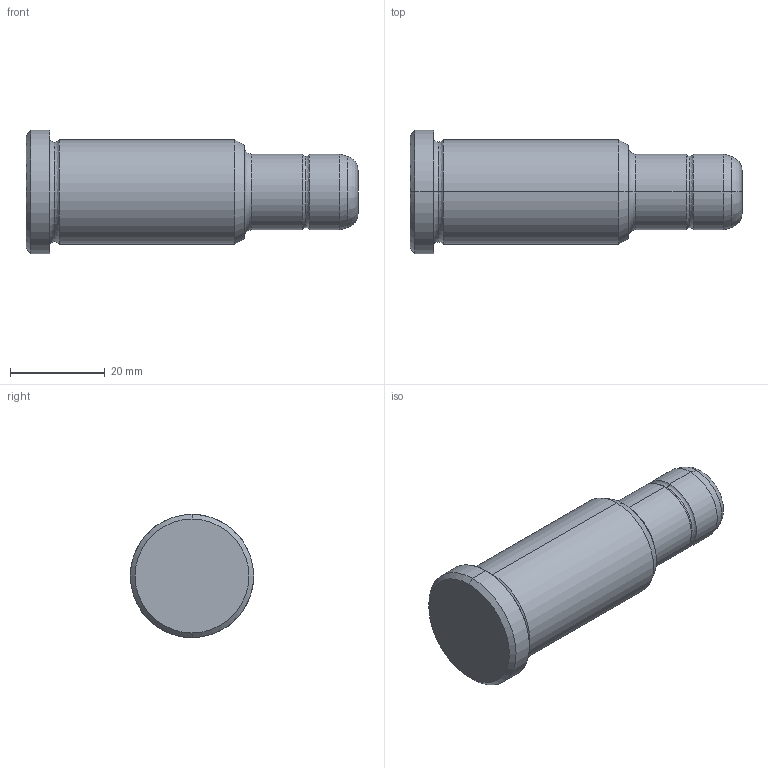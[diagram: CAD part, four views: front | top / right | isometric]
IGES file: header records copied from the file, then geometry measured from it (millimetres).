
Start section: START RECORD GO HERE.
Global section: file name: 351-16X46X70.igs; native system: DASSAULT SYSTEMES CATIA V5 R20 - www.3ds.com; preprocessor: CATIA Version 5 Release 20 ; author: Utente; organization: NB04-ASUS; date: 20210818.132550; units: millimetre
Bounding box: 70 x 26 x 26 mm (x, y, z)
Surface area: 5313.5 mm2 (no closed solid volume)
Topology: 0 solids, 0 shells, 30 faces, 172 edges, 172 vertices
Faces by surface type: revolution 26, plane 4
